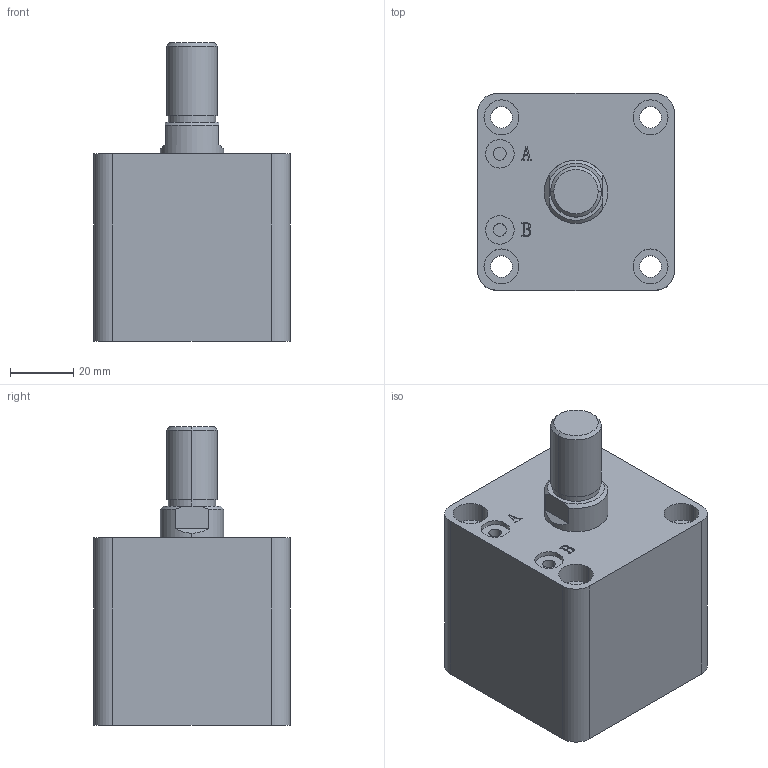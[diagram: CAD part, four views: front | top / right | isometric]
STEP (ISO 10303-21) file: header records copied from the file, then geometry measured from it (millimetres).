
FILE_DESCRIPTION (( 'STEP AP203' ), '1' );
FILE_NAME ('HTB-SDMA32-5W.STEP', '2019-10-07T11:37:38', ( '微软用户' ), ( '微软中国' ), 'SwSTEP 2.0', 'SolidWorks 2012', '' );
FILE_SCHEMA (( 'CONFIG_CONTROL_DESIGN' ));
Length unit declared in the file: millimetre
Products named in the file (3): HTB-SDMA32-5W; HTB-SDMA32-5W活塞杆; HTB-SDMA32-5掛极
Assembly tree (2 placements, depth 2):
  HTB-SDMA32-5W
    HTB-SDMA32-5掛极
    HTB-SDMA32-5W活塞杆
Bounding box: 62 x 62 x 94 mm (x, y, z)
Volume: 218334.5 mm3; surface area: 39584.1 mm2
Topology: 2 solids, 2 shells, 141 faces, 337 edges, 222 vertices
Faces by surface type: plane 67, cylinder 48, bspline 16, torus 6, cone 4
Entity records: 5176 total; most frequent: CARTESIAN_POINT 1593, ORIENTED_EDGE 674, DIRECTION 669, EDGE_CURVE 337, AXIS2_PLACEMENT_3D 242, VERTEX_POINT 222, VECTOR 185, LINE 185
